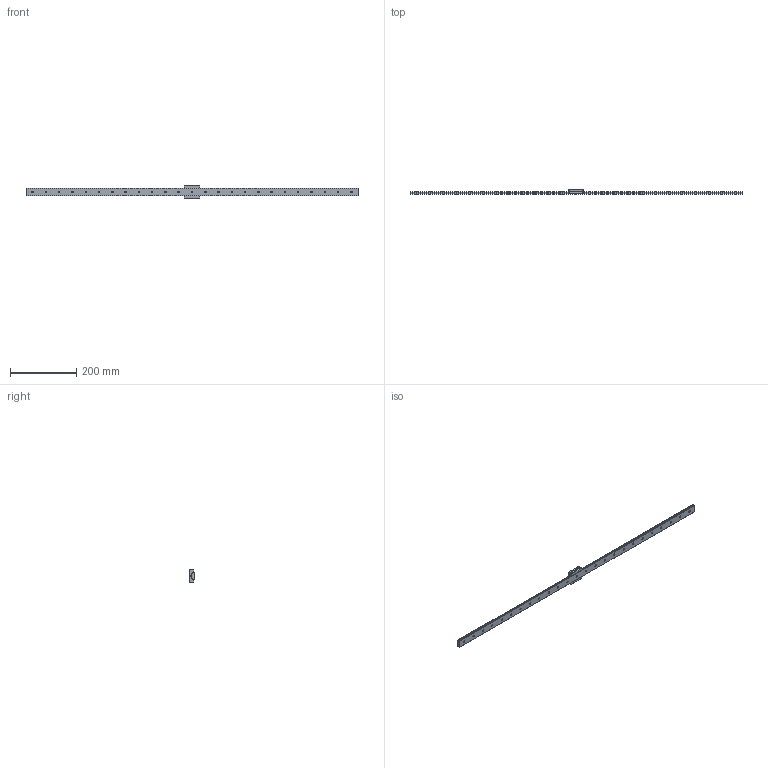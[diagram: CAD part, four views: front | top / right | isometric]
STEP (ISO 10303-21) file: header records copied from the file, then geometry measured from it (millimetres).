
FILE_DESCRIPTION( ( '' ), '1' );
FILE_NAME( 'C:/Users/v3-771-32344/Documents/Website 2016/STEP/SHW14CRM1UU1000200477.25000.stp', '2016-11-10T12:45:25', ( '' ), ( '' ), ' ', ' ', ' ' );
FILE_SCHEMA( ( 'CONFIG_CONTROL_DESIGN' ) );
Length unit declared in the file: millimetre
Products named in the file (2): 1; 2
Bounding box: 1000 x 14 x 40 mm (x, y, z)
Volume: 177242.2 mm3; surface area: 72732.2 mm2
Topology: 2 solids, 2 shells, 271 faces, 704 edges, 460 vertices
Faces by surface type: cylinder 150, plane 105, cone 16
Entity records: 8534 total; most frequent: DIRECTION 1554, CARTESIAN_POINT 1429, ORIENTED_EDGE 1392, EDGE_CURVE 696, AXIS2_PLACEMENT_3D 585, VERTEX_POINT 460, LINE 384, VECTOR 384
